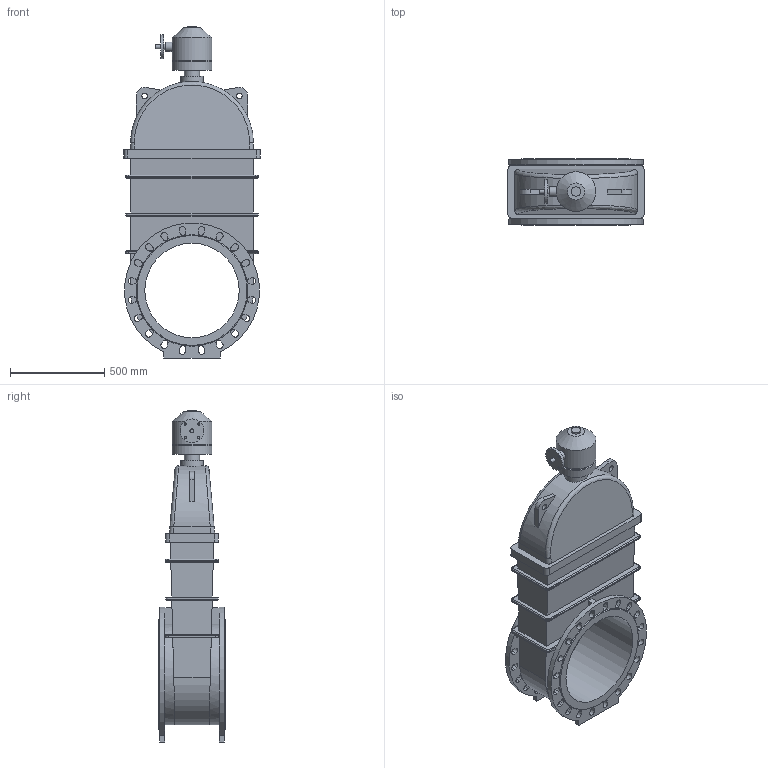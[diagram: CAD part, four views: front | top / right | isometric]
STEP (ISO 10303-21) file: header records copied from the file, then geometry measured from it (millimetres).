
FILE_DESCRIPTION(('STEP AP203'), '1');
FILE_NAME('Çàäâèæêà 47GV.Z DN500 PN10_PN16 + ðåäóêòîð ñ âõîäíûì ôëàíöåì', '', ('UNSPECIFIED'), ('UNSPECIFIED'), 'ASCON STEP Converter 1.6', 'ASCON Math Kernel', '');
FILE_SCHEMA(('CONFIG_CONTROL_DESIGN'));
Length unit declared in the file: millimetre
Bounding box: 720 x 350 x 1757.5 mm (x, y, z)
Volume: 158753885.8 mm3; surface area: 4244158.9 mm2
Topology: 1 solids, 1 shells, 364 faces, 945 edges, 613 vertices
Faces by surface type: plane 178, cylinder 159, bspline 24, cone 3
Full cylindrical faces by diameter (mm): 12 x4, 17.5 x4, 22 x4, 30 x3, 50 x2, 80 x1, 120 x1, 125 x1, 190 x1, 210 x2, 500 x1
Entity records: 16701 total; most frequent: CARTESIAN_POINT 4791, ORIENTED_EDGE 1836, DIRECTION 1805, EDGE_CURVE 918, AXIS2_PLACEMENT_3D 624, VERTEX_POINT 613, LINE 557, VECTOR 557
